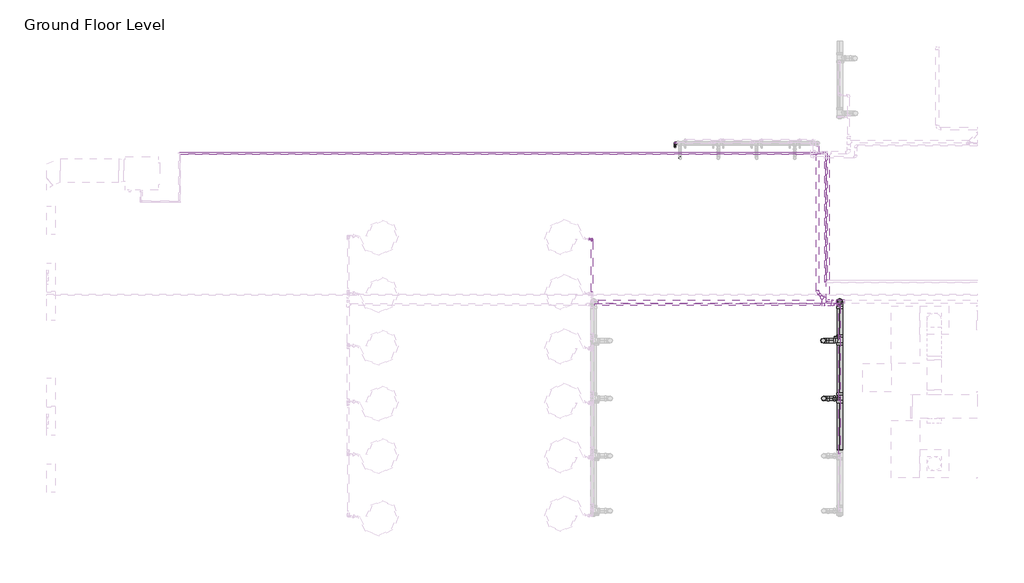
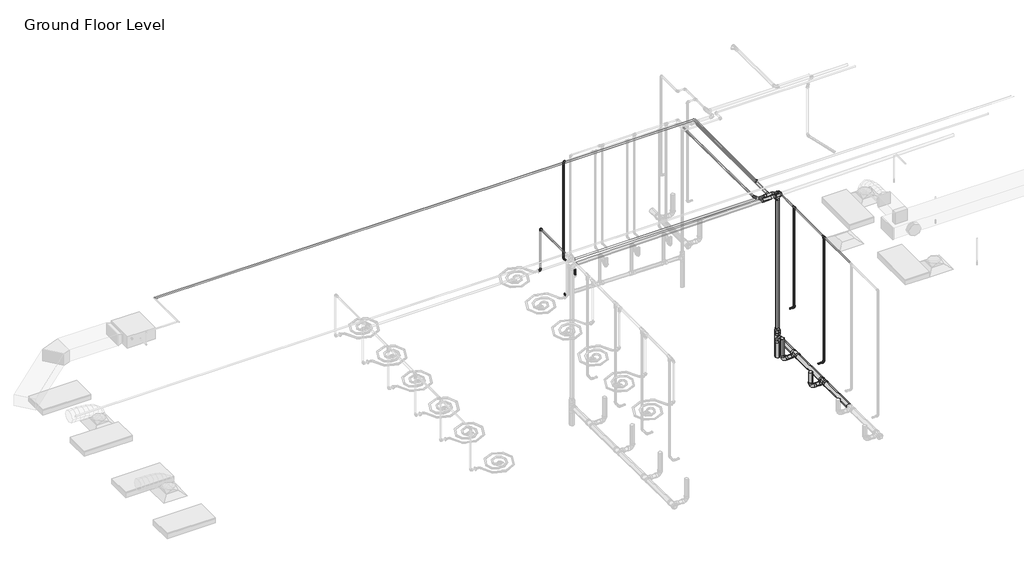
# One storey, part 6 of 74: 34 pipe segments, 25 pipe fittings.
"""IFC4 building model written with IfcOpenShell, lengths in millimetres."""

from ifc_helpers import new_model, si_unit, point, frame, frame_2d, origin, place, context, project, spatial, circle_curve, trimmed, segment, composite_curve, outline, extrude, transform, mapped, element, save
from components import m_bend_pvc_sch_40_dwv_standard_a4b99d37, m_bend_pvc_sch_40_dwv_standard_e3c94691, m_elbow_generic_standard_a088f956, m_elbow_generic_standard_2a704253, m_plug_pvc_sch_40_dwv_standard_af737ab4, m_reducer_pvc_sch_40_dwv_standard_9996614f, m_reducer_pvc_sch_40_dwv_standard_d5f313ea, m_tee_pvc_sch_40_standard_f738ad92, m_tee_reducing_sanitary_pvc_sch_40_dwv_standard_b49161a9, m_tee_reducing_sanitary_pvc_sch_40_dwv_standard_b574f8c1, m_tee_reducing_sanitary_pvc_sch_40_dwv_standard_749dcb00, standard_b266ab3f, standard_517a5a8d, standard_72b35c3b, standard_cd25fed3, standard_f1337950, standard_92e3b147, standard_96815b99

model = new_model("IFC4")

# Units and contexts
model_context = context("Model", 3, world=origin())
ifc_project = project(units=[si_unit("LENGTHUNIT", "METRE", prefix="MILLI")], contexts=[model_context])

# Site, building, storey
site = spatial("IfcSite", under=ifc_project)
building = spatial("IfcBuilding", under=site)
storey = spatial("IfcBuildingStorey", under=building, Name="Ground Floor Level", Elevation=900.0)

# Pipe fittings
placement = place(None, origin())
m_bend_pvc_sch_40_dwv_standard_shape = m_bend_pvc_sch_40_dwv_standard_a4b99d37(model_context)
element("IfcPipeFitting", 1, ObjectType="M_Bend - PVC - Sch 40 - DWV : Standard", at=placement, inside=storey, context=model_context, shape_type="MappedRepresentation", body=[
    mapped(m_bend_pvc_sch_40_dwv_standard_shape, transform((-968.6302333, -38202.7929166, 451.1165277), x_axis=(0.0, 0.0, -1.0), y_axis=(1.0, 0.0, 0.0), z_axis=(0.0, -1.0, 0.0))),
])
element("IfcPipeFitting", 2, ObjectType="M_Bend - PVC - Sch 40 - DWV : Standard", at=placement, inside=storey, context=model_context, shape_type="MappedRepresentation", body=[
    mapped(m_bend_pvc_sch_40_dwv_standard_shape, transform((-980.7754578, -36991.6976494, 439.005575), x_axis=(0.0, 0.0, -1.0), y_axis=(1.0, 0.0, 0.0), z_axis=(0.0, -1.0, 0.0))),
])
m_bend_pvc_sch_40_dwv_standard_2_shape = m_bend_pvc_sch_40_dwv_standard_e3c94691(model_context)
element("IfcPipeFitting", 3, ObjectType="M_Bend - PVC - Sch 40 - DWV : Standard", at=placement, inside=storey, context=model_context, shape_type="MappedRepresentation", body=[
    mapped(m_bend_pvc_sch_40_dwv_standard_2_shape, transform((-1099.4034743, -35983.4440089, 4158.2853209), x_axis=(0.0, -0.9999500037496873, 0.009999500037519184), y_axis=(0.9999712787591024, 7.578648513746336e-05, 0.0075786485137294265), z_axis=(-0.0075790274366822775, 0.00999921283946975, 0.999921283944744))),
])
m_elbow_generic_standard_shape = m_elbow_generic_standard_a088f956(model_context)
element("IfcPipeFitting", 4, ObjectType="M_Elbow - Generic : Standard", at=placement, inside=storey, context=model_context, shape_type="MappedRepresentation", body=[
    mapped(m_elbow_generic_standard_shape, transform((-897.1048173, -35730.466218, 4390.0), x_axis=(0.0, -1.0, 0.0), y_axis=(1.0, 0.0, 0.0), z_axis=(0.0, 0.0, 1.0))),
])
m_elbow_generic_standard_2_shape = m_elbow_generic_standard_2a704253(model_context)
element("IfcPipeFitting", 5, ObjectType="M_Elbow - Generic : Standard", at=placement, inside=storey, context=model_context, shape_type="MappedRepresentation", body=[
    mapped(m_elbow_generic_standard_2_shape, transform((-941.0095887, -35773.5402522, 4377.5), x_axis=(0.0, -1.0, 0.0), y_axis=(1.0, 0.0, 0.0), z_axis=(0.0, 0.0, 1.0))),
])
m_plug_pvc_sch_40_dwv_standard_shape = m_plug_pvc_sch_40_dwv_standard_af737ab4(model_context)
element("IfcPipeFitting", 6, ObjectType="M_Plug - PVC - Sch 40 - DWV : Standard", at=placement, inside=storey, context=model_context, shape_type="MappedRepresentation", body=[
    mapped(m_plug_pvc_sch_40_dwv_standard_shape, transform((-4032.6980903, -32858.7119065, 719.0298098), x_axis=(-0.9999500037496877, 0.0, 0.009999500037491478), y_axis=(-0.009999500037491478, 0.0, -0.9999500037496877), z_axis=(0.0, -1.0, 0.0))),
])
m_reducer_pvc_sch_40_dwv_standard_shape = m_reducer_pvc_sch_40_dwv_standard_9996614f(model_context)
element("IfcPipeFitting", 7, ObjectType="M_Reducer - PVC - Sch 40 - DWV : Standard", at=placement, inside=storey, context=model_context, shape_type="MappedRepresentation", body=[
    mapped(m_reducer_pvc_sch_40_dwv_standard_shape, transform((-633.5600391, -36176.1401483, 560.1642409), x_axis=(0.0, 0.0, 1.0), y_axis=(0.0, 1.0, 0.0), z_axis=(-1.0, 0.0, 0.0))),
])
m_reducer_pvc_sch_40_dwv_standard_2_shape = m_reducer_pvc_sch_40_dwv_standard_d5f313ea(model_context)
element("IfcPipeFitting", 8, ObjectType="M_Reducer - PVC - Sch 40 - DWV : Standard", at=placement, inside=storey, context=model_context, shape_type="MappedRepresentation", body=[
    mapped(m_reducer_pvc_sch_40_dwv_standard_2_shape, transform((-978.5266614, -36104.3135805, 4160.1162588), x_axis=(-0.7070640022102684, 0.7070403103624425, -0.012429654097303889), y_axis=(-0.7070788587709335, -0.7071326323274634, -0.0017110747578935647), z_axis=(-0.009999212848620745, 0.007578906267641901, 0.9999212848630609))),
])
m_tee_pvc_sch_40_standard_shape = m_tee_pvc_sch_40_standard_f738ad92(model_context)
element("IfcPipeFitting", 9, ObjectType="M_Tee - PVC - Sch 40 : Standard", at=placement, inside=storey, context=model_context, shape_type="MappedRepresentation", body=[
    mapped(m_tee_pvc_sch_40_standard_shape, transform((-906.6976867, -36176.1401483, 4161.3789582), x_axis=(0.9999500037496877, 0.0, 0.009999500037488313), y_axis=(-7.578527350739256e-05, -0.9999712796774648, 0.007578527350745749), z_axis=(0.009999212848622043, -0.0075789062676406, -0.9999212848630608))),
])
m_tee_reducing_sanitary_pvc_sch_40_dwv_standard_shape = m_tee_reducing_sanitary_pvc_sch_40_dwv_standard_b49161a9(model_context)
element("IfcPipeFitting", 10, ObjectType="M_Tee Reducing Sanitary - PVC - Sch 40 - DWV : Standard", at=placement, inside=storey, context=model_context, shape_type="MappedRepresentation", body=[
    mapped(m_tee_reducing_sanitary_pvc_sch_40_dwv_standard_shape, transform((-633.5600391, -38202.7914168, 451.2665127), x_axis=(0.0, -0.9999500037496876, 0.009999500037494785), y_axis=(1.0, 0.0, 0.0), z_axis=(0.0, 0.009999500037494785, 0.9999500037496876))),
])
element("IfcPipeFitting", 11, ObjectType="M_Tee Reducing Sanitary - PVC - Sch 40 - DWV : Standard", at=placement, inside=storey, context=model_context, shape_type="MappedRepresentation", body=[
    mapped(m_tee_reducing_sanitary_pvc_sch_40_dwv_standard_shape, transform((-633.5600391, -36991.6961495, 439.15556), x_axis=(0.0, -0.9999500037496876, 0.0099995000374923), y_axis=(1.0, 0.0, 0.0), z_axis=(0.0, 0.0099995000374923, 0.9999500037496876))),
])
m_tee_reducing_sanitary_pvc_sch_40_dwv_standard_2_shape = m_tee_reducing_sanitary_pvc_sch_40_dwv_standard_b574f8c1(model_context)
element("IfcPipeFitting", 12, ObjectType="M_Tee Reducing Sanitary - PVC - Sch 40 - DWV : Standard", at=placement, inside=storey, context=model_context, shape_type="MappedRepresentation", body=[
    mapped(m_tee_reducing_sanitary_pvc_sch_40_dwv_standard_2_shape, transform((-633.5600391, -36176.1401483, 4164.1103347), x_axis=(-0.9999500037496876, 0.0, -0.009999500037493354), y_axis=(-0.009999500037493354, 0.0, 0.9999500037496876), z_axis=(0.0, 1.0, 0.0))),
])
m_tee_reducing_sanitary_pvc_sch_40_dwv_standard_3_shape = m_tee_reducing_sanitary_pvc_sch_40_dwv_standard_749dcb00(model_context)
element("IfcPipeFitting", 13, ObjectType="M_Tee Reducing Sanitary - PVC - Sch 40 - DWV : Standard", at=placement, inside=storey, context=model_context, shape_type="MappedRepresentation", body=[
    mapped(m_tee_reducing_sanitary_pvc_sch_40_dwv_standard_3_shape, transform((-633.5600391, -36176.1401483, 431.0), x_axis=(0.0, 0.0, 1.0), y_axis=(0.0, 1.0, 0.0), z_axis=(-1.0, 0.0, 0.0))),
])
standard_shape = standard_b266ab3f(model_context)
element("IfcPipeFitting", 14, ObjectType="M_Elbow - CPVC - Sch 40 : Standard", at=placement, inside=storey, context=model_context, shape_type="MappedRepresentation", body=[
    mapped(standard_shape, transform((-4077.5302417, -32850.870708, 1690.0), x_axis=(0.0, 0.0, -1.0), y_axis=(0.0, -1.0, 0.0), z_axis=(-1.0, 0.0, 0.0))),
])
element("IfcPipeFitting", 15, ObjectType="M_Elbow - CPVC - Sch 40 : Standard", at=placement, inside=storey, context=model_context, shape_type="MappedRepresentation", body=[
    mapped(standard_shape, transform((-4077.5302417, -32850.870708, 4250.0), x_axis=(-1.0, 0.0, 0.0), y_axis=(0.0, 0.0, -1.0), z_axis=(0.0, -1.0, 0.0))),
])
standard_2_shape = standard_517a5a8d(model_context)
element("IfcPipeFitting", 16, ObjectType="M_Elbow - CPVC - Sch 40 : Standard", at=placement, inside=storey, context=model_context, shape_type="MappedRepresentation", body=[
    mapped(standard_2_shape, transform((-639.6485359, -36234.6855451, 4300.0), x_axis=(0.0, 1.0, 0.0), y_axis=(-1.0, 0.0, 0.0), z_axis=(0.0, 0.0, 1.0))),
])
element("IfcPipeFitting", 17, ObjectType="M_Elbow - CPVC - Sch 40 : Standard", at=placement, inside=storey, context=model_context, shape_type="MappedRepresentation", body=[
    mapped(standard_2_shape, transform((-639.6485359, -36918.2588832, 1655.0), x_axis=(0.0, 0.0, -1.0), y_axis=(-1.0, 0.0, 0.0), z_axis=(0.0, 1.0, 0.0))),
])
element("IfcPipeFitting", 18, ObjectType="M_Elbow - CPVC - Sch 40 : Standard", at=placement, inside=storey, context=model_context, shape_type="MappedRepresentation", body=[
    mapped(standard_2_shape, transform((-5815.4900472, -34864.6926466, 3200.0), x_axis=(1.0, 0.0, 0.0), y_axis=(0.0, 0.0, 1.0), z_axis=(0.0, -1.0, 0.0))),
])
element("IfcPipeFitting", 19, ObjectType="M_Elbow - CPVC - Sch 40 : Standard", at=placement, inside=storey, context=model_context, shape_type="MappedRepresentation", body=[
    mapped(standard_2_shape, transform((-5815.4900472, -34864.6926466, 4300.0), x_axis=(0.0, 0.0, 1.0), y_axis=(0.0, -1.0, 0.0), z_axis=(1.0, 0.0, 0.0))),
])
standard_3_shape = standard_72b35c3b(model_context)
element("IfcPipeFitting", 20, ObjectType="M_Tee - CPVC - Sch 40 : Standard", at=placement, inside=storey, context=model_context, shape_type="MappedRepresentation", body=[
    mapped(standard_3_shape, transform((-639.6485359, -38202.7929166, 4300.0), x_axis=(0.0, -1.0, 0.0), y_axis=(0.0, 0.0, 1.0), z_axis=(-1.0, 0.0, 0.0))),
])
element("IfcPipeFitting", 21, ObjectType="M_Tee - CPVC - Sch 40 : Standard", at=placement, inside=storey, context=model_context, shape_type="MappedRepresentation", body=[
    mapped(standard_3_shape, transform((-639.6485359, -36918.2588832, 4300.0), x_axis=(0.0, -1.0, 0.0), y_axis=(0.0, 0.0, 1.0), z_axis=(-1.0, 0.0, 0.0))),
])
standard_4_shape = standard_cd25fed3(model_context)
element("IfcPipeFitting", 22, ObjectType="M_Tee - CPVC - Sch 40 : Standard", at=placement, inside=storey, context=model_context, shape_type="MappedRepresentation", body=[
    mapped(standard_4_shape, transform((-881.5205995, -36234.6855451, 4300.0), x_axis=(-1.0, 0.0, 0.0), y_axis=(0.0, -1.0, 0.0), z_axis=(0.0, 0.0, 1.0))),
])
standard_5_shape = standard_f1337950(model_context)
element("IfcPipeFitting", 23, ObjectType="M_Coupling Reducing - CPVC - Sch 40 : Standard", at=placement, inside=storey, context=model_context, shape_type="MappedRepresentation", body=[
    mapped(standard_5_shape, transform((-814.8455995, -36234.6855451, 4300.0), x_axis=(1.0, 0.0, 0.0), y_axis=(0.0, 1.0, 0.0), z_axis=(0.0, 0.0, 1.0))),
])
standard_6_shape = standard_92e3b147(model_context)
element("IfcPipeFitting", 24, ObjectType="M_Coupling Reducing - CPVC - Sch 40 : Standard", at=placement, inside=storey, context=model_context, shape_type="MappedRepresentation", body=[
    mapped(standard_6_shape, transform((-948.1955995, -36234.6855451, 4300.0), x_axis=(-1.0, 0.0, 0.0), y_axis=(0.0, -1.0, 0.0), z_axis=(0.0, 0.0, 1.0))),
])
standard_7_shape = standard_96815b99(model_context)
element("IfcPipeFitting", 25, ObjectType="M_Elbow - CPVC - Sch 40 : Standard", at=placement, inside=storey, context=model_context, shape_type="MappedRepresentation", body=[
    mapped(standard_7_shape, transform((-639.6485359, -38202.7929166, 983.4999978), x_axis=(0.0, 0.0, -1.0), y_axis=(-1.0, 0.0, 0.0), z_axis=(0.0, 1.0, 0.0))),
])

# Pipe segments
element("IfcPipeSegment", 26, ObjectType="CPVC", at=placement, inside=storey, context=model_context, shape_type="SweptSolid", body=[
    extrude(outline(composite_curve([segment(trimmed(circle_curve(frame_2d((4300.0, -881.5205995)), 30.1625), [point((4300.0, -851.3580995))], [point((4330.1625, -881.5205995))], False, "CARTESIAN"), True, "CONTINUOUS"), segment(trimmed(circle_curve(frame_2d((4300.0, -881.5205995)), 30.1625), [point((4330.1625, -881.5205995))], [point((4300.0, -911.6830995))], False, "CARTESIAN"), True, "CONTINUOUS"), segment(trimmed(circle_curve(frame_2d((4300.0, -881.5205995)), 30.1625), [point((4300.0, -911.6830995))], [point((4269.8375, -881.5205995))], False, "CARTESIAN"), True, "CONTINUOUS"), segment(trimmed(circle_curve(frame_2d((4300.0, -881.5205995)), 30.1625), [point((4269.8375, -881.5205995))], [point((4300.0, -851.3580995))], False, "CARTESIAN"), True, "CONTINUOUS")], self_intersect=False)), frame((0.0, -36168.0105451, 0.0), z_axis=(0.0, 1.0, 0.0), x_axis=(0.0, 0.0, 1.0)), (0.0, 0.0, 1.0), 3046.65),
])
element("IfcPipeSegment", 27, ObjectType="CPVC", at=placement, inside=storey, context=model_context, shape_type="SweptSolid", body=[
    extrude(outline(composite_curve([segment(trimmed(circle_curve(frame_2d((-36234.6855451, 4300.0)), 16.7005), [point((-36251.3860451, 4300.0))], [point((-36234.6855451, 4316.7005))], False, "CARTESIAN"), True, "CONTINUOUS"), segment(trimmed(circle_curve(frame_2d((-36234.6855451, 4300.0)), 16.7005), [point((-36234.6855451, 4316.7005))], [point((-36217.9850451, 4300.0))], False, "CARTESIAN"), True, "CONTINUOUS"), segment(trimmed(circle_curve(frame_2d((-36234.6855451, 4300.0)), 16.7005), [point((-36217.9850451, 4300.0))], [point((-36234.6855451, 4283.2995))], False, "CARTESIAN"), True, "CONTINUOUS"), segment(trimmed(circle_curve(frame_2d((-36234.6855451, 4300.0)), 16.7005), [point((-36234.6855451, 4283.2995))], [point((-36251.3860451, 4300.0))], False, "CARTESIAN"), True, "CONTINUOUS")], self_intersect=False)), frame((-735.0467245, 0.0, 0.0), z_axis=(1.0, 0.0, 0.0), x_axis=(0.0, 1.0, 0.0)), (0.0, 0.0, 1.0), 52.1356386),
])
element("IfcPipeSegment", 28, ObjectType="CPVC", at=placement, inside=storey, context=model_context, shape_type="SweptSolid", body=[
    extrude(outline(composite_curve([segment(trimmed(circle_curve(frame_2d((4300.0, -639.6485359)), 16.7005), [point((4300.0, -656.3490359))], [point((4283.2995, -639.6485359))], False, "CARTESIAN"), True, "CONTINUOUS"), segment(trimmed(circle_curve(frame_2d((4300.0, -639.6485359)), 16.7005), [point((4283.2995, -639.6485359))], [point((4300.0, -622.9480359))], False, "CARTESIAN"), True, "CONTINUOUS"), segment(trimmed(circle_curve(frame_2d((4300.0, -639.6485359)), 16.7005), [point((4300.0, -622.9480359))], [point((4316.7005, -639.6485359))], False, "CARTESIAN"), True, "CONTINUOUS"), segment(trimmed(circle_curve(frame_2d((4300.0, -639.6485359)), 16.7005), [point((4316.7005, -639.6485359))], [point((4300.0, -656.3490359))], False, "CARTESIAN"), True, "CONTINUOUS")], self_intersect=False)), frame((0.0, -39363.1023066, 0.0), z_axis=(0.0, 1.0, 0.0), x_axis=(0.0, 0.0, 1.0)), (0.0, 0.0, 1.0), 1120.60919),
])
element("IfcPipeSegment", 29, ObjectType="CPVC", at=placement, inside=storey, context=model_context, shape_type="SweptSolid", body=[
    extrude(outline(composite_curve([segment(trimmed(circle_curve(frame_2d((-38202.7929166, 983.4999921)), 16.7005), [point((-38186.0924166, 983.4999921))], [point((-38202.7929166, 966.7994921))], False, "CARTESIAN"), True, "CONTINUOUS"), segment(trimmed(circle_curve(frame_2d((-38202.7929166, 983.4999921)), 16.7005), [point((-38202.7929166, 966.7994921))], [point((-38219.4934166, 983.4999921))], False, "CARTESIAN"), True, "CONTINUOUS"), segment(trimmed(circle_curve(frame_2d((-38202.7929166, 983.4999921)), 16.7005), [point((-38219.4934166, 983.4999921))], [point((-38202.7929166, 1000.2004921))], False, "CARTESIAN"), True, "CONTINUOUS"), segment(trimmed(circle_curve(frame_2d((-38202.7929166, 983.4999921)), 16.7005), [point((-38202.7929166, 1000.2004921))], [point((-38186.0924166, 983.4999921))], False, "CARTESIAN"), True, "CONTINUOUS")], self_intersect=False)), frame((-782.4615578, 0.0, 0.0), z_axis=(1.0, 0.0, 0.0), x_axis=(0.0, 1.0, 0.0)), (0.0, 0.0, 1.0), 99.5504746),
])
element("IfcPipeSegment", 30, ObjectType="CPVC", at=placement, inside=storey, context=model_context, shape_type="SweptSolid", body=[
    extrude(outline(composite_curve([segment(trimmed(circle_curve(frame_2d((-639.6485359, -38202.7929166)), 16.7005), [point((-622.9480359, -38202.7929166))], [point((-639.6485359, -38219.4934166))], False, "CARTESIAN"), True, "CONTINUOUS"), segment(trimmed(circle_curve(frame_2d((-639.6485359, -38202.7929166)), 16.7005), [point((-639.6485359, -38219.4934166))], [point((-656.3490359, -38202.7929166))], False, "CARTESIAN"), True, "CONTINUOUS"), segment(trimmed(circle_curve(frame_2d((-639.6485359, -38202.7929166)), 16.7005), [point((-656.3490359, -38202.7929166))], [point((-639.6485359, -38186.0924166))], False, "CARTESIAN"), True, "CONTINUOUS"), segment(trimmed(circle_curve(frame_2d((-639.6485359, -38202.7929166)), 16.7005), [point((-639.6485359, -38186.0924166))], [point((-622.9480359, -38202.7929166))], False, "CARTESIAN"), True, "CONTINUOUS")], self_intersect=False)), frame((0.0, 0.0, 1026.762545), z_axis=(0.0, 0.0, 1.0), x_axis=(1.0, 0.0, 0.0)), (0.0, 0.0, 1.0), 3233.537255),
])
element("IfcPipeSegment", 31, ObjectType="CPVC", at=placement, inside=storey, context=model_context, shape_type="SweptSolid", body=[
    extrude(outline(composite_curve([segment(trimmed(circle_curve(frame_2d((4300.0, -639.6485359)), 16.7005), [point((4300.0, -656.3490359))], [point((4283.2995, -639.6485359))], False, "CARTESIAN"), True, "CONTINUOUS"), segment(trimmed(circle_curve(frame_2d((4300.0, -639.6485359)), 16.7005), [point((4283.2995, -639.6485359))], [point((4300.0, -622.9480359))], False, "CARTESIAN"), True, "CONTINUOUS"), segment(trimmed(circle_curve(frame_2d((4300.0, -639.6485359)), 16.7005), [point((4300.0, -622.9480359))], [point((4316.7005, -639.6485359))], False, "CARTESIAN"), True, "CONTINUOUS"), segment(trimmed(circle_curve(frame_2d((4300.0, -639.6485359)), 16.7005), [point((4316.7005, -639.6485359))], [point((4300.0, -656.3490359))], False, "CARTESIAN"), True, "CONTINUOUS")], self_intersect=False)), frame((0.0, -38163.0927166, 0.0), z_axis=(0.0, 1.0, 0.0), x_axis=(0.0, 0.0, 1.0)), (0.0, 0.0, 1.0), 1205.1336334),
])
element("IfcPipeSegment", 32, ObjectType="CPVC", at=placement, inside=storey, context=model_context, shape_type="SweptSolid", body=[
    extrude(outline(composite_curve([segment(trimmed(circle_curve(frame_2d((-36918.2588832, 1655.0)), 16.7005), [point((-36901.5583832, 1655.0))], [point((-36918.2588832, 1638.2995))], False, "CARTESIAN"), True, "CONTINUOUS"), segment(trimmed(circle_curve(frame_2d((-36918.2588832, 1655.0)), 16.7005), [point((-36918.2588832, 1638.2995))], [point((-36934.9593832, 1655.0))], False, "CARTESIAN"), True, "CONTINUOUS"), segment(trimmed(circle_curve(frame_2d((-36918.2588832, 1655.0)), 16.7005), [point((-36934.9593832, 1655.0))], [point((-36918.2588832, 1671.7005))], False, "CARTESIAN"), True, "CONTINUOUS"), segment(trimmed(circle_curve(frame_2d((-36918.2588832, 1655.0)), 16.7005), [point((-36918.2588832, 1671.7005))], [point((-36901.5583832, 1655.0))], False, "CARTESIAN"), True, "CONTINUOUS")], self_intersect=False)), frame((-747.2327605, 0.0, 0.0), z_axis=(1.0, 0.0, 0.0), x_axis=(0.0, 1.0, 0.0)), (0.0, 0.0, 1.0), 64.3216746),
])
element("IfcPipeSegment", 33, ObjectType="CPVC", at=placement, inside=storey, context=model_context, shape_type="SweptSolid", body=[
    extrude(outline(composite_curve([segment(trimmed(circle_curve(frame_2d((-639.6485359, -36918.2588832)), 16.7005), [point((-622.9480359, -36918.2588832))], [point((-639.6485359, -36934.9593832))], False, "CARTESIAN"), True, "CONTINUOUS"), segment(trimmed(circle_curve(frame_2d((-639.6485359, -36918.2588832)), 16.7005), [point((-639.6485359, -36934.9593832))], [point((-656.3490359, -36918.2588832))], False, "CARTESIAN"), True, "CONTINUOUS"), segment(trimmed(circle_curve(frame_2d((-639.6485359, -36918.2588832)), 16.7005), [point((-656.3490359, -36918.2588832))], [point((-639.6485359, -36901.5583832))], False, "CARTESIAN"), True, "CONTINUOUS"), segment(trimmed(circle_curve(frame_2d((-639.6485359, -36918.2588832)), 16.7005), [point((-639.6485359, -36901.5583832))], [point((-622.9480359, -36918.2588832))], False, "CARTESIAN"), True, "CONTINUOUS")], self_intersect=False)), frame((0.0, 0.0, 1698.26255), z_axis=(0.0, 0.0, 1.0), x_axis=(1.0, 0.0, 0.0)), (0.0, 0.0, 1.0), 2562.03725),
])
element("IfcPipeSegment", 34, ObjectType="CPVC", at=placement, inside=storey, context=model_context, shape_type="SweptSolid", body=[
    extrude(outline(composite_curve([segment(trimmed(circle_curve(frame_2d((4300.0, -639.6485359)), 16.7005), [point((4300.0, -656.3490359))], [point((4283.2995, -639.6485359))], False, "CARTESIAN"), True, "CONTINUOUS"), segment(trimmed(circle_curve(frame_2d((4300.0, -639.6485359)), 16.7005), [point((4283.2995, -639.6485359))], [point((4300.0, -622.9480359))], False, "CARTESIAN"), True, "CONTINUOUS"), segment(trimmed(circle_curve(frame_2d((4300.0, -639.6485359)), 16.7005), [point((4300.0, -622.9480359))], [point((4316.7005, -639.6485359))], False, "CARTESIAN"), True, "CONTINUOUS"), segment(trimmed(circle_curve(frame_2d((4300.0, -639.6485359)), 16.7005), [point((4316.7005, -639.6485359))], [point((4300.0, -656.3490359))], False, "CARTESIAN"), True, "CONTINUOUS")], self_intersect=False)), frame((0.0, -36878.5586832, 0.0), z_axis=(0.0, 1.0, 0.0), x_axis=(0.0, 0.0, 1.0)), (0.0, 0.0, 1.0), 600.610588),
])
element("IfcPipeSegment", 35, ObjectType="CPVC", at=placement, inside=storey, context=model_context, shape_type="SweptSolid", body=[
    extrude(outline(composite_curve([segment(trimmed(circle_curve(frame_2d((-36234.6855451, 4300.0)), 24.13), [point((-36210.5555451, 4300.0))], [point((-36234.6855451, 4275.87))], False, "CARTESIAN"), True, "CONTINUOUS"), segment(trimmed(circle_curve(frame_2d((-36234.6855451, 4300.0)), 24.13), [point((-36234.6855451, 4275.87))], [point((-36258.8155451, 4300.0))], False, "CARTESIAN"), True, "CONTINUOUS"), segment(trimmed(circle_curve(frame_2d((-36234.6855451, 4300.0)), 24.13), [point((-36258.8155451, 4300.0))], [point((-36234.6855451, 4324.13))], False, "CARTESIAN"), True, "CONTINUOUS"), segment(trimmed(circle_curve(frame_2d((-36234.6855451, 4300.0)), 24.13), [point((-36234.6855451, 4324.13))], [point((-36210.5555451, 4300.0))], False, "CARTESIAN"), True, "CONTINUOUS")], self_intersect=False)), frame((-5753.5648472, 0.0, 0.0), z_axis=(1.0, 0.0, 0.0), x_axis=(0.0, 1.0, 0.0)), (0.0, 0.0, 1.0), 4713.9504977),
])
element("IfcPipeSegment", 36, ObjectType="CPVC", at=placement, inside=storey, context=model_context, shape_type="SweptSolid", body=[
    extrude(outline(composite_curve([segment(trimmed(circle_curve(frame_2d((-34864.6926466, 3200.0)), 16.7005), [point((-34881.3931466, 3200.0))], [point((-34864.6926466, 3216.7005))], False, "CARTESIAN"), True, "CONTINUOUS"), segment(trimmed(circle_curve(frame_2d((-34864.6926466, 3200.0)), 16.7005), [point((-34864.6926466, 3216.7005))], [point((-34847.9921466, 3200.0))], False, "CARTESIAN"), True, "CONTINUOUS"), segment(trimmed(circle_curve(frame_2d((-34864.6926466, 3200.0)), 16.7005), [point((-34847.9921466, 3200.0))], [point((-34864.6926466, 3183.2995))], False, "CARTESIAN"), True, "CONTINUOUS"), segment(trimmed(circle_curve(frame_2d((-34864.6926466, 3200.0)), 16.7005), [point((-34864.6926466, 3183.2995))], [point((-34881.3931466, 3200.0))], False, "CARTESIAN"), True, "CONTINUOUS")], self_intersect=False)), frame((-5868.9493142, 0.0, 0.0), z_axis=(1.0, 0.0, 0.0), x_axis=(0.0, 1.0, 0.0)), (0.0, 0.0, 1.0), 10.1967171),
])
element("IfcPipeSegment", 37, ObjectType="CPVC", at=placement, inside=storey, context=model_context, shape_type="SweptSolid", body=[
    extrude(outline(composite_curve([segment(trimmed(circle_curve(frame_2d((-5815.4900472, -34864.6926466)), 16.7005), [point((-5832.1905472, -34864.6926466))], [point((-5815.4900472, -34847.9921466))], False, "CARTESIAN"), True, "CONTINUOUS"), segment(trimmed(circle_curve(frame_2d((-5815.4900472, -34864.6926466)), 16.7005), [point((-5815.4900472, -34847.9921466))], [point((-5798.7895472, -34864.6926466))], False, "CARTESIAN"), True, "CONTINUOUS"), segment(trimmed(circle_curve(frame_2d((-5815.4900472, -34864.6926466)), 16.7005), [point((-5798.7895472, -34864.6926466))], [point((-5815.4900472, -34881.3931466))], False, "CARTESIAN"), True, "CONTINUOUS"), segment(trimmed(circle_curve(frame_2d((-5815.4900472, -34864.6926466)), 16.7005), [point((-5815.4900472, -34881.3931466))], [point((-5832.1905472, -34864.6926466))], False, "CARTESIAN"), True, "CONTINUOUS")], self_intersect=False)), frame((0.0, 0.0, 3243.26255), z_axis=(0.0, 0.0, 1.0), x_axis=(1.0, 0.0, 0.0)), (0.0, 0.0, 1.0), 1013.4749),
])
element("IfcPipeSegment", 38, ObjectType="CPVC", at=placement, inside=storey, context=model_context, shape_type="SweptSolid", body=[
    extrude(outline(composite_curve([segment(trimmed(circle_curve(frame_2d((4300.0, -5815.4900472)), 16.7005), [point((4300.0, -5832.1905472))], [point((4283.2995, -5815.4900472))], False, "CARTESIAN"), True, "CONTINUOUS"), segment(trimmed(circle_curve(frame_2d((4300.0, -5815.4900472)), 16.7005), [point((4283.2995, -5815.4900472))], [point((4300.0, -5798.7895472))], False, "CARTESIAN"), True, "CONTINUOUS"), segment(trimmed(circle_curve(frame_2d((4300.0, -5815.4900472)), 16.7005), [point((4300.0, -5798.7895472))], [point((4316.7005, -5815.4900472))], False, "CARTESIAN"), True, "CONTINUOUS"), segment(trimmed(circle_curve(frame_2d((4300.0, -5815.4900472)), 16.7005), [point((4316.7005, -5815.4900472))], [point((4300.0, -5832.1905472))], False, "CARTESIAN"), True, "CONTINUOUS")], self_intersect=False)), frame((0.0, -35973.0833466, 0.0), z_axis=(0.0, 1.0, 0.0), x_axis=(0.0, 0.0, 1.0)), (0.0, 0.0, 1.0), 1065.12815),
])
element("IfcPipeSegment", 39, ObjectType="CPVC", at=placement, inside=storey, context=model_context, shape_type="SweptSolid", body=[
    extrude(outline(composite_curve([segment(trimmed(circle_curve(frame_2d((1690.0, -4077.5302417)), 13.335), [point((1690.0, -4090.8652417))], [point((1676.665, -4077.5302417))], False, "CARTESIAN"), True, "CONTINUOUS"), segment(trimmed(circle_curve(frame_2d((1690.0, -4077.5302417)), 13.335), [point((1676.665, -4077.5302417))], [point((1690.0, -4064.1952417))], False, "CARTESIAN"), True, "CONTINUOUS"), segment(trimmed(circle_curve(frame_2d((1690.0, -4077.5302417)), 13.335), [point((1690.0, -4064.1952417))], [point((1703.335, -4077.5302417))], False, "CARTESIAN"), True, "CONTINUOUS"), segment(trimmed(circle_curve(frame_2d((1690.0, -4077.5302417)), 13.335), [point((1703.335, -4077.5302417))], [point((1690.0, -4090.8652417))], False, "CARTESIAN"), True, "CONTINUOUS")], self_intersect=False)), frame((0.0, -32944.7846466, 0.0), z_axis=(0.0, 1.0, 0.0), x_axis=(0.0, 0.0, 1.0)), (0.0, 0.0, 1.0), 58.5888886),
])
element("IfcPipeSegment", 40, ObjectType="CPVC", at=placement, inside=storey, context=model_context, shape_type="SweptSolid", body=[
    extrude(outline(composite_curve([segment(trimmed(circle_curve(frame_2d((-4077.5302417, -32850.870708)), 13.335), [point((-4064.1952417, -32850.870708))], [point((-4077.5302417, -32864.205708))], False, "CARTESIAN"), True, "CONTINUOUS"), segment(trimmed(circle_curve(frame_2d((-4077.5302417, -32850.870708)), 13.335), [point((-4077.5302417, -32864.205708))], [point((-4090.8652417, -32850.870708))], False, "CARTESIAN"), True, "CONTINUOUS"), segment(trimmed(circle_curve(frame_2d((-4077.5302417, -32850.870708)), 13.335), [point((-4090.8652417, -32850.870708))], [point((-4077.5302417, -32837.535708))], False, "CARTESIAN"), True, "CONTINUOUS"), segment(trimmed(circle_curve(frame_2d((-4077.5302417, -32850.870708)), 13.335), [point((-4077.5302417, -32837.535708))], [point((-4064.1952417, -32850.870708))], False, "CARTESIAN"), True, "CONTINUOUS")], self_intersect=False)), frame((0.0, 0.0, 1725.32505), z_axis=(0.0, 0.0, 1.0), x_axis=(1.0, 0.0, 0.0)), (0.0, 0.0, 1.0), 2489.3499),
])
element("IfcPipeSegment", 41, ObjectType="Copper", at=placement, inside=storey, context=model_context, shape_type="SweptSolid", body=[
    extrude(outline(composite_curve([segment(trimmed(circle_curve(frame_2d((4390.0, -897.1048173)), 6.5), [point((4390.0, -890.6048173))], [point((4396.5, -897.1048173))], False, "CARTESIAN"), True, "CONTINUOUS"), segment(trimmed(circle_curve(frame_2d((4390.0, -897.1048173)), 6.5), [point((4396.5, -897.1048173))], [point((4390.0, -903.6048173))], False, "CARTESIAN"), True, "CONTINUOUS"), segment(trimmed(circle_curve(frame_2d((4390.0, -897.1048173)), 6.5), [point((4390.0, -903.6048173))], [point((4383.5, -897.1048173))], False, "CARTESIAN"), True, "CONTINUOUS"), segment(trimmed(circle_curve(frame_2d((4390.0, -897.1048173)), 6.5), [point((4383.5, -897.1048173))], [point((4390.0, -890.6048173))], False, "CARTESIAN"), True, "CONTINUOUS")], self_intersect=False)), frame((0.0, -35716.178718, 0.0), z_axis=(0.0, 1.0, 0.0), x_axis=(0.0, 0.0, 1.0)), (0.0, 0.0, 1.0), 2651.425),
])
element("IfcPipeSegment", 42, ObjectType="Copper", at=placement, inside=storey, context=model_context, shape_type="SweptSolid", body=[
    extrude(outline(composite_curve([segment(trimmed(circle_curve(frame_2d((-33050.466218, 4390.0)), 6.5), [point((-33043.966218, 4390.0))], [point((-33050.466218, 4383.5))], False, "CARTESIAN"), True, "CONTINUOUS"), segment(trimmed(circle_curve(frame_2d((-33050.466218, 4390.0)), 6.5), [point((-33050.466218, 4383.5))], [point((-33056.966218, 4390.0))], False, "CARTESIAN"), True, "CONTINUOUS"), segment(trimmed(circle_curve(frame_2d((-33050.466218, 4390.0)), 6.5), [point((-33056.966218, 4390.0))], [point((-33050.466218, 4396.5))], False, "CARTESIAN"), True, "CONTINUOUS"), segment(trimmed(circle_curve(frame_2d((-33050.466218, 4390.0)), 6.5), [point((-33050.466218, 4396.5))], [point((-33043.966218, 4390.0))], False, "CARTESIAN"), True, "CONTINUOUS")], self_intersect=False)), frame((-14442.8173173, 0.0, 0.0), z_axis=(1.0, 0.0, 0.0), x_axis=(0.0, 1.0, 0.0)), (0.0, 0.0, 1.0), 13531.425),
])
element("IfcPipeSegment", 43, ObjectType="Copper", at=placement, inside=storey, context=model_context, shape_type="SweptSolid", body=[
    extrude(outline(composite_curve([segment(trimmed(circle_curve(frame_2d((4377.5, -941.0095887)), 3.35), [point((4377.5, -937.6595887))], [point((4380.85, -941.0095887))], False, "CARTESIAN"), True, "CONTINUOUS"), segment(trimmed(circle_curve(frame_2d((4377.5, -941.0095887)), 3.35), [point((4380.85, -941.0095887))], [point((4377.5, -944.3595887))], False, "CARTESIAN"), True, "CONTINUOUS"), segment(trimmed(circle_curve(frame_2d((4377.5, -941.0095887)), 3.35), [point((4377.5, -944.3595887))], [point((4374.15, -941.0095887))], False, "CARTESIAN"), True, "CONTINUOUS"), segment(trimmed(circle_curve(frame_2d((4377.5, -941.0095887)), 3.35), [point((4374.15, -941.0095887))], [point((4377.5, -937.6595887))], False, "CARTESIAN"), True, "CONTINUOUS")], self_intersect=False)), frame((0.0, -35762.4027522, 0.0), z_axis=(0.0, 1.0, 0.0), x_axis=(0.0, 0.0, 1.0)), (0.0, 0.0, 1.0), 2662.725),
])
element("IfcPipeSegment", 44, ObjectType="Copper", at=placement, inside=storey, context=model_context, shape_type="SweptSolid", body=[
    extrude(outline(composite_curve([segment(trimmed(circle_curve(frame_2d((-33088.5402522, 4377.5)), 3.35), [point((-33085.1902522, 4377.5))], [point((-33088.5402522, 4374.15))], False, "CARTESIAN"), True, "CONTINUOUS"), segment(trimmed(circle_curve(frame_2d((-33088.5402522, 4377.5)), 3.35), [point((-33088.5402522, 4374.15))], [point((-33091.8902522, 4377.5))], False, "CARTESIAN"), True, "CONTINUOUS"), segment(trimmed(circle_curve(frame_2d((-33088.5402522, 4377.5)), 3.35), [point((-33091.8902522, 4377.5))], [point((-33088.5402522, 4380.85))], False, "CARTESIAN"), True, "CONTINUOUS"), segment(trimmed(circle_curve(frame_2d((-33088.5402522, 4377.5)), 3.35), [point((-33088.5402522, 4380.85))], [point((-33085.1902522, 4377.5))], False, "CARTESIAN"), True, "CONTINUOUS")], self_intersect=False)), frame((-14414.8720887, 0.0, 0.0), z_axis=(1.0, 0.0, 0.0), x_axis=(0.0, 1.0, 0.0)), (0.0, 0.0, 1.0), 13462.725),
])
element("IfcPipeSegment", 45, ObjectType="PVC - DWV", at=placement, inside=storey, context=model_context, shape_type="SweptSolid", body=[
    extrude(outline(composite_curve([segment(trimmed(circle_curve(frame_2d((-968.6302333, -38202.7929166)), 44.45), [point((-924.1802333, -38202.7929166))], [point((-968.6302333, -38247.2429166))], False, "CARTESIAN"), True, "CONTINUOUS"), segment(trimmed(circle_curve(frame_2d((-968.6302333, -38202.7929166)), 44.45), [point((-968.6302333, -38247.2429166))], [point((-1013.0802333, -38202.7929166))], False, "CARTESIAN"), True, "CONTINUOUS"), segment(trimmed(circle_curve(frame_2d((-968.6302333, -38202.7929166)), 44.45), [point((-1013.0802333, -38202.7929166))], [point((-968.6302333, -38158.3429166))], False, "CARTESIAN"), True, "CONTINUOUS"), segment(trimmed(circle_curve(frame_2d((-968.6302333, -38202.7929166)), 44.45), [point((-968.6302333, -38158.3429166))], [point((-924.1802333, -38202.7929166))], False, "CARTESIAN"), True, "CONTINUOUS")], self_intersect=False)), frame((0.0, 0.0, 567.0167277), z_axis=(0.0, 0.0, 1.0), x_axis=(1.0, 0.0, 0.0)), (0.0, 0.0, 1.0), 263.6516489),
])
element("IfcPipeSegment", 46, ObjectType="PVC - DWV", at=placement, inside=storey, context=model_context, shape_type="SweptSolid", body=[
    extrude(outline(composite_curve([segment(trimmed(circle_curve(frame_2d((-38202.7914168, 451.2665127)), 44.45), [point((-38247.2414168, 451.2665127))], [point((-38202.7914168, 495.7165127))], False, "CARTESIAN"), True, "CONTINUOUS"), segment(trimmed(circle_curve(frame_2d((-38202.7914168, 451.2665127)), 44.45), [point((-38202.7914168, 495.7165127))], [point((-38158.3414168, 451.2665127))], False, "CARTESIAN"), True, "CONTINUOUS"), segment(trimmed(circle_curve(frame_2d((-38202.7914168, 451.2665127)), 44.45), [point((-38158.3414168, 451.2665127))], [point((-38202.7914168, 406.8165127))], False, "CARTESIAN"), True, "CONTINUOUS"), segment(trimmed(circle_curve(frame_2d((-38202.7914168, 451.2665127)), 44.45), [point((-38202.7914168, 406.8165127))], [point((-38247.2414168, 451.2665127))], False, "CARTESIAN"), True, "CONTINUOUS")], self_intersect=False)), frame((-852.7300333, 0.0, 0.0), z_axis=(1.0, 0.0, 0.0), x_axis=(0.0, 1.0, 0.0)), (0.0, 0.0, 1.0), 90.5697942),
])
element("IfcPipeSegment", 47, ObjectType="PVC - DWV", at=placement, inside=storey, context=model_context, shape_type="SweptSolid", body=[
    extrude(outline(composite_curve([segment(trimmed(circle_curve(frame_2d((0.0, -57.1500001)), 57.15), [point((57.15, -57.1500001))], [point((0.0, -114.3000001))], False, "CARTESIAN"), True, "CONTINUOUS"), segment(trimmed(circle_curve(frame_2d((0.0, -57.1500001)), 57.15), [point((0.0, -114.3000001))], [point((-57.15, -57.1500001))], False, "CARTESIAN"), True, "CONTINUOUS"), segment(trimmed(circle_curve(frame_2d((0.0, -57.1500001)), 57.15), [point((-57.15, -57.1500001))], [point((0.0, 0.0))], False, "CARTESIAN"), True, "CONTINUOUS"), segment(trimmed(circle_curve(frame_2d((0.0, -57.1500001)), 57.15), [point((0.0, 0.0))], [point((57.15, -57.1500001))], False, "CARTESIAN"), True, "CONTINUOUS")], self_intersect=False)), frame((-633.5600391, -38291.1155007, 509.302611), z_axis=(0.0, -0.9999500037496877, 0.009999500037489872), x_axis=(1.0, 0.0, 0.0)), (0.0, 0.0, 1.0), 990.519589),
])
element("IfcPipeSegment", 48, ObjectType="PVC - DWV", at=placement, inside=storey, context=model_context, shape_type="SweptSolid", body=[
    extrude(outline(composite_curve([segment(trimmed(circle_curve(frame_2d((-980.7754578, -36991.6976494)), 44.45), [point((-936.3254578, -36991.6976494))], [point((-980.7754578, -37036.1476494))], False, "CARTESIAN"), True, "CONTINUOUS"), segment(trimmed(circle_curve(frame_2d((-980.7754578, -36991.6976494)), 44.45), [point((-980.7754578, -37036.1476494))], [point((-1025.2254578, -36991.6976494))], False, "CARTESIAN"), True, "CONTINUOUS"), segment(trimmed(circle_curve(frame_2d((-980.7754578, -36991.6976494)), 44.45), [point((-1025.2254578, -36991.6976494))], [point((-980.7754578, -36947.2476494))], False, "CARTESIAN"), True, "CONTINUOUS"), segment(trimmed(circle_curve(frame_2d((-980.7754578, -36991.6976494)), 44.45), [point((-980.7754578, -36947.2476494))], [point((-936.3254578, -36991.6976494))], False, "CARTESIAN"), True, "CONTINUOUS")], self_intersect=False)), frame((0.0, 0.0, 554.905775), z_axis=(0.0, 0.0, 1.0), x_axis=(1.0, 0.0, 0.0)), (0.0, 0.0, 1.0), 435.094225),
])
element("IfcPipeSegment", 49, ObjectType="PVC - DWV", at=placement, inside=storey, context=model_context, shape_type="SweptSolid", body=[
    extrude(outline(composite_curve([segment(trimmed(circle_curve(frame_2d((-36991.6961495, 439.15556)), 44.45), [point((-37036.1461495, 439.15556))], [point((-36991.6961495, 483.60556))], False, "CARTESIAN"), True, "CONTINUOUS"), segment(trimmed(circle_curve(frame_2d((-36991.6961495, 439.15556)), 44.45), [point((-36991.6961495, 483.60556))], [point((-36947.2461495, 439.15556))], False, "CARTESIAN"), True, "CONTINUOUS"), segment(trimmed(circle_curve(frame_2d((-36991.6961495, 439.15556)), 44.45), [point((-36947.2461495, 439.15556))], [point((-36991.6961495, 394.70556))], False, "CARTESIAN"), True, "CONTINUOUS"), segment(trimmed(circle_curve(frame_2d((-36991.6961495, 439.15556)), 44.45), [point((-36991.6961495, 394.70556))], [point((-37036.1461495, 439.15556))], False, "CARTESIAN"), True, "CONTINUOUS")], self_intersect=False)), frame((-864.8752578, 0.0, 0.0), z_axis=(1.0, 0.0, 0.0), x_axis=(0.0, 1.0, 0.0)), (0.0, 0.0, 1.0), 102.7150187),
])
element("IfcPipeSegment", 50, ObjectType="PVC - DWV", at=placement, inside=storey, context=model_context, shape_type="SweptSolid", body=[
    extrude(outline(composite_curve([segment(trimmed(circle_curve(frame_2d((0.0, -57.15)), 57.15), [point((57.15, -57.15))], [point((0.0, -114.3))], False, "CARTESIAN"), True, "CONTINUOUS"), segment(trimmed(circle_curve(frame_2d((0.0, -57.15)), 57.15), [point((0.0, -114.3))], [point((-57.15, -57.15))], False, "CARTESIAN"), True, "CONTINUOUS"), segment(trimmed(circle_curve(frame_2d((0.0, -57.15)), 57.15), [point((-57.15, -57.15))], [point((0.0, 0.0))], False, "CARTESIAN"), True, "CONTINUOUS"), segment(trimmed(circle_curve(frame_2d((0.0, -57.15)), 57.15), [point((0.0, 0.0))], [point((57.15, -57.15))], False, "CARTESIAN"), True, "CONTINUOUS")], self_intersect=False)), frame((-633.5600391, -36316.3592938, 489.5550489), z_axis=(0.0, -0.9999500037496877, 0.009999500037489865), x_axis=(1.0, 0.0, 0.0)), (0.0, 0.0, 1.0), 554.1491218),
])
element("IfcPipeSegment", 51, ObjectType="PVC - DWV", at=placement, inside=storey, context=model_context, shape_type="SweptSolid", body=[
    extrude(outline(composite_curve([segment(trimmed(circle_curve(frame_2d((0.0, -57.15)), 57.15), [point((57.15, -57.15))], [point((0.0, -114.3))], False, "CARTESIAN"), True, "CONTINUOUS"), segment(trimmed(circle_curve(frame_2d((0.0, -57.15)), 57.15), [point((0.0, -114.3))], [point((-57.15, -57.15))], False, "CARTESIAN"), True, "CONTINUOUS"), segment(trimmed(circle_curve(frame_2d((0.0, -57.15)), 57.15), [point((-57.15, -57.15))], [point((0.0, 0.0))], False, "CARTESIAN"), True, "CONTINUOUS"), segment(trimmed(circle_curve(frame_2d((0.0, -57.15)), 57.15), [point((0.0, 0.0))], [point((57.15, -57.15))], False, "CARTESIAN"), True, "CONTINUOUS")], self_intersect=False)), frame((-633.5600391, -37080.0202334, 497.1916583), z_axis=(0.0, -0.9999500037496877, 0.009999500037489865), x_axis=(1.0, 0.0, 0.0)), (0.0, 0.0, 1.0), 1001.6058205),
])
element("IfcPipeSegment", 52, ObjectType="PVC - DWV", at=placement, inside=storey, context=model_context, shape_type="SweptSolid", body=[
    extrude(outline(composite_curve([segment(trimmed(circle_curve(frame_2d((-633.5600391, -36176.1401483)), 57.15), [point((-576.4100391, -36176.1401483))], [point((-633.5600391, -36233.2901483))], False, "CARTESIAN"), True, "CONTINUOUS"), segment(trimmed(circle_curve(frame_2d((-633.5600391, -36176.1401483)), 57.15), [point((-633.5600391, -36233.2901483))], [point((-690.7100391, -36176.1401483))], False, "CARTESIAN"), True, "CONTINUOUS"), segment(trimmed(circle_curve(frame_2d((-633.5600391, -36176.1401483)), 57.15), [point((-690.7100391, -36176.1401483))], [point((-633.5600391, -36118.9901483))], False, "CARTESIAN"), True, "CONTINUOUS"), segment(trimmed(circle_curve(frame_2d((-633.5600391, -36176.1401483)), 57.15), [point((-633.5600391, -36118.9901483))], [point((-576.4100391, -36176.1401483))], False, "CARTESIAN"), True, "CONTINUOUS")], self_intersect=False)), frame((0.0, 0.0, -100.0), z_axis=(0.0, 0.0, 1.0), x_axis=(1.0, 0.0, 0.0)), (0.0, 0.0, 1.0), 393.0900938),
])
element("IfcPipeSegment", 53, ObjectType="PVC - DWV", at=placement, inside=storey, context=model_context, shape_type="SweptSolid", body=[
    extrude(outline(composite_curve([segment(trimmed(circle_curve(frame_2d((-3973.215321, -33168.3528578)), 24.13), [point((-3949.085321, -33168.3528578))], [point((-3973.215321, -33192.4828578))], False, "CARTESIAN"), True, "CONTINUOUS"), segment(trimmed(circle_curve(frame_2d((-3973.215321, -33168.3528578)), 24.13), [point((-3973.215321, -33192.4828578))], [point((-3997.345321, -33168.3528578))], False, "CARTESIAN"), True, "CONTINUOUS"), segment(trimmed(circle_curve(frame_2d((-3973.215321, -33168.3528578)), 24.13), [point((-3997.345321, -33168.3528578))], [point((-3973.215321, -33144.2228578))], False, "CARTESIAN"), True, "CONTINUOUS"), segment(trimmed(circle_curve(frame_2d((-3973.215321, -33168.3528578)), 24.13), [point((-3973.215321, -33144.2228578))], [point((-3949.085321, -33168.3528578))], False, "CARTESIAN"), True, "CONTINUOUS")], self_intersect=False)), frame((0.0, 0.0, 1406.8998), z_axis=(0.0, 0.0, 1.0), x_axis=(1.0, 0.0, 0.0)), (0.0, 0.0, 1.0), 143.1002),
])
element("IfcPipeSegment", 54, ObjectType="PVC - DWV", at=placement, inside=storey, context=model_context, shape_type="SweptSolid", body=[
    extrude(outline(composite_curve([segment(trimmed(circle_curve(frame_2d((-633.5600391, -36176.1401483)), 57.15), [point((-690.7100391, -36176.1401483))], [point((-633.5600391, -36118.9901483))], False, "CARTESIAN"), True, "CONTINUOUS"), segment(trimmed(circle_curve(frame_2d((-633.5600391, -36176.1401483)), 57.15), [point((-633.5600391, -36118.9901483))], [point((-576.4100391, -36176.1401483))], False, "CARTESIAN"), True, "CONTINUOUS"), segment(trimmed(circle_curve(frame_2d((-633.5600391, -36176.1401483)), 57.15), [point((-576.4100391, -36176.1401483))], [point((-633.5600391, -36233.2901483))], False, "CARTESIAN"), True, "CONTINUOUS"), segment(trimmed(circle_curve(frame_2d((-633.5600391, -36176.1401483)), 57.15), [point((-633.5600391, -36233.2901483))], [point((-690.7100391, -36176.1401483))], False, "CARTESIAN"), True, "CONTINUOUS")], self_intersect=False)), frame((0.0, 0.0, 540.1642409), z_axis=(0.0, 0.0, 1.0), x_axis=(1.0, 0.0, 0.0)), (0.0, 0.0, 1.0), 20.0),
])
element("IfcPipeSegment", 55, ObjectType="PVC - DWV", at=placement, inside=storey, context=model_context, shape_type="SweptSolid", body=[
    extrude(outline(composite_curve([segment(trimmed(circle_curve(frame_2d((-633.5600391, -36176.1401483)), 36.5125), [point((-670.0725391, -36176.1401483))], [point((-633.5600391, -36139.6276483))], False, "CARTESIAN"), True, "CONTINUOUS"), segment(trimmed(circle_curve(frame_2d((-633.5600391, -36176.1401483)), 36.5125), [point((-633.5600391, -36139.6276483))], [point((-597.0475391, -36176.1401483))], False, "CARTESIAN"), True, "CONTINUOUS"), segment(trimmed(circle_curve(frame_2d((-633.5600391, -36176.1401483)), 36.5125), [point((-597.0475391, -36176.1401483))], [point((-633.5600391, -36212.6526483))], False, "CARTESIAN"), True, "CONTINUOUS"), segment(trimmed(circle_curve(frame_2d((-633.5600391, -36176.1401483)), 36.5125), [point((-633.5600391, -36212.6526483))], [point((-670.0725391, -36176.1401483))], False, "CARTESIAN"), True, "CONTINUOUS")], self_intersect=False)), frame((0.0, 0.0, 664.1103347), z_axis=(0.0, 0.0, 1.0), x_axis=(1.0, 0.0, 0.0)), (0.0, 0.0, 1.0), 3400.0320312),
])
element("IfcPipeSegment", 56, ObjectType="PVC - DWV", at=placement, inside=storey, context=model_context, shape_type="SweptSolid", body=[
    extrude(outline(composite_curve([segment(trimmed(circle_curve(frame_2d((0.0, 36.5125)), 36.5125), [point((0.0, 0.0))], [point((-36.5125, 36.5125))], False, "CARTESIAN"), True, "CONTINUOUS"), segment(trimmed(circle_curve(frame_2d((0.0, 36.5125)), 36.5125), [point((-36.5125, 36.5125))], [point((0.0, 73.025))], False, "CARTESIAN"), True, "CONTINUOUS"), segment(trimmed(circle_curve(frame_2d((0.0, 36.5125)), 36.5125), [point((0.0, 73.025))], [point((36.5125, 36.5125))], False, "CARTESIAN"), True, "CONTINUOUS"), segment(trimmed(circle_curve(frame_2d((0.0, 36.5125)), 36.5125), [point((36.5125, 36.5125))], [point((0.0, 0.0))], False, "CARTESIAN"), True, "CONTINUOUS")], self_intersect=False)), frame((-805.1151098, -36212.6526483, 4162.394784), z_axis=(0.9999500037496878, 0.0, 0.00999950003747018), x_axis=(0.00999950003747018, 0.0, -0.9999500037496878)), (0.0, 0.0, 1.0), 97.2144386),
])
element("IfcPipeSegment", 57, ObjectType="PVC - DWV", at=placement, inside=storey, context=model_context, shape_type="SweptSolid", body=[
    extrude(outline(composite_curve([segment(trimmed(circle_curve(frame_2d((0.0, 21.082)), 21.082), [point((-21.082, 21.082))], [point((0.0, 42.1639999))], False, "CARTESIAN"), True, "CONTINUOUS"), segment(trimmed(circle_curve(frame_2d((0.0, 21.082)), 21.082), [point((0.0, 42.1639999))], [point((21.082, 21.082))], False, "CARTESIAN"), True, "CONTINUOUS"), segment(trimmed(circle_curve(frame_2d((0.0, 21.082)), 21.082), [point((21.082, 21.082))], [point((0.0, 0.0))], False, "CARTESIAN"), True, "CONTINUOUS"), segment(trimmed(circle_curve(frame_2d((0.0, 21.082)), 21.082), [point((0.0, 0.0))], [point((-21.082, 21.082))], False, "CARTESIAN"), True, "CONTINUOUS")], self_intersect=False)), frame((-1099.4034743, -32916.0698763, 4106.5285255), z_axis=(0.0, -0.9999500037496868, 0.009999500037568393), x_axis=(1.0, 0.0, 0.0)), (0.0, 0.0, 1.0), 3024.8885174),
])
element("IfcPipeSegment", 58, ObjectType="PVC - DWV", at=placement, inside=storey, context=model_context, shape_type="SweptSolid", body=[
    extrude(outline(composite_curve([segment(trimmed(circle_curve(frame_2d((0.0, 21.082)), 21.082), [point((-21.0815101, 20.9382712))], [point((-0.1437289, 42.1635101))], False, "CARTESIAN"), True, "CONTINUOUS"), segment(trimmed(circle_curve(frame_2d((0.0, 21.082)), 21.082), [point((-0.1437289, 42.1635101))], [point((21.08151, 21.2257289))], False, "CARTESIAN"), True, "CONTINUOUS"), segment(trimmed(circle_curve(frame_2d((0.0, 21.082)), 21.082), [point((21.08151, 21.2257289))], [point((0.1437288, 0.00049))], False, "CARTESIAN"), True, "CONTINUOUS"), segment(trimmed(circle_curve(frame_2d((0.0, 21.082)), 21.082), [point((0.1437288, 0.00049))], [point((-21.0815101, 20.9382712))], False, "CARTESIAN"), True, "CONTINUOUS")], self_intersect=False)), frame((-1069.1056723, -36013.9435502, 4137.7369095), z_axis=(0.7071143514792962, -0.7070663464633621, 0.006817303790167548), x_axis=(0.7070992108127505, 0.707081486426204, -0.006817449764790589)), (0.0, 0.0, 1.0), 61.6951385),
])
element("IfcPipeSegment", 59, ObjectType="PVC - DWV", at=placement, inside=storey, context=model_context, shape_type="SweptSolid", body=[
    extrude(outline(composite_curve([segment(trimmed(circle_curve(frame_2d((0.0, 36.5125)), 36.5125), [point((0.0, 0.0))], [point((-36.5125, 36.5125))], False, "CARTESIAN"), True, "CONTINUOUS"), segment(trimmed(circle_curve(frame_2d((0.0, 36.5125)), 36.5125), [point((-36.5125, 36.5125))], [point((0.0, 73.025))], False, "CARTESIAN"), True, "CONTINUOUS"), segment(trimmed(circle_curve(frame_2d((0.0, 36.5125)), 36.5125), [point((0.0, 73.025))], [point((36.5125, 36.5125))], False, "CARTESIAN"), True, "CONTINUOUS"), segment(trimmed(circle_curve(frame_2d((0.0, 36.5125)), 36.5125), [point((36.5125, 36.5125))], [point((0.0, 0.0))], False, "CARTESIAN"), True, "CONTINUOUS")], self_intersect=False)), frame((-5684.0583676, -36212.6526483, 4113.6053514), z_axis=(0.9999500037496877, 0.0, 0.009999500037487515), x_axis=(0.009999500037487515, 0.0, -0.9999500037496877)), (0.0, 0.0, 1.0), 4676.011887),
])

save(model, "model.ifc")
